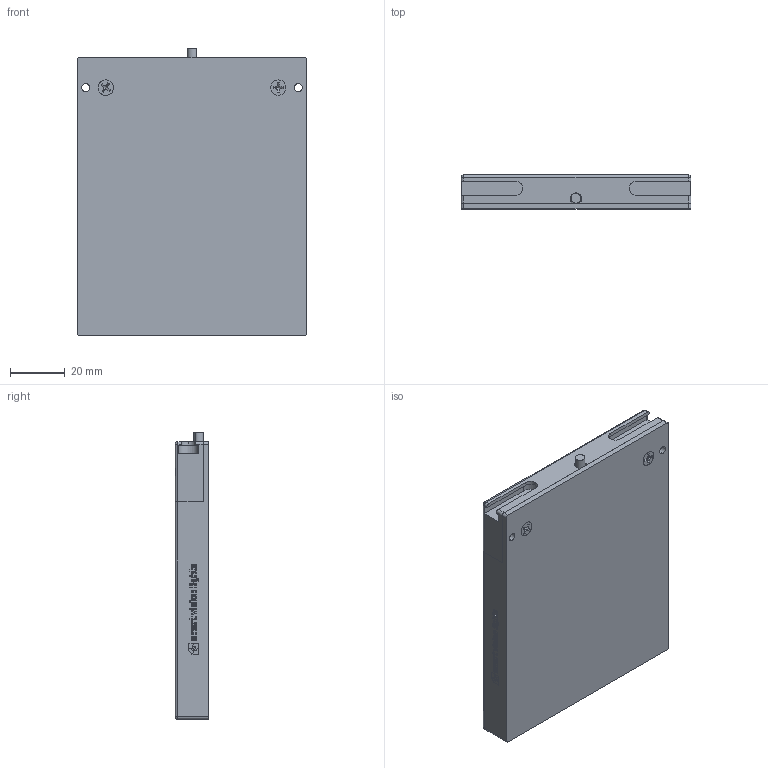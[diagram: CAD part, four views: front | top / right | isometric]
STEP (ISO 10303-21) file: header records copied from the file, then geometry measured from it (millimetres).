
FILE_DESCRIPTION (( 'STEP AP214' ), '1' );
FILE_NAME ('MINI BACKLIGHT ASY 75x75.STEP', '2023-02-28T14:51:51', ( '' ), ( '' ), 'SwSTEP 2.0', 'SolidWorks 2023', '' );
FILE_SCHEMA (( 'AUTOMOTIVE_DESIGN' ));
Length unit declared in the file: millimetre
Products named in the file (14): .118in DIFFUSER_75X75; BMP0001_BMP0001; MINI BACKLIGHT ASY 75x75; MINI BACKLIGHT HOUSING REV16_75X75; CABLE_CABLE; LED BRD ASY_75x75; MINI BACKLIGHT ENDCAP REV16_75X75; LED BRD LIGHT TAPE_75X75; .02in VELVET MATTE FILM_75X75; DIFFUSER ASY_75X75; MBL LED BRD SIMPLE_75X75; END CAP TAPE_END CAP TAPE; LED BRD ADHESIVE_75X75; SC0069_SC0069
Assembly tree (14 placements, depth 3):
  MINI BACKLIGHT ASY 75x75
    MINI BACKLIGHT HOUSING REV16_75X75
    LED BRD ASY_75x75
      MBL LED BRD SIMPLE_75X75
      LED BRD LIGHT TAPE_75X75
      LED BRD ADHESIVE_75X75
    DIFFUSER ASY_75X75
      .118in DIFFUSER_75X75
      .02in VELVET MATTE FILM_75X75
    BMP0001_BMP0001
    CABLE_CABLE
    MINI BACKLIGHT ENDCAP REV16_75X75
    END CAP TAPE_END CAP TAPE
    SC0069_SC0069  x2
Bounding box: 84 x 12.4 x 104.76 mm (x, y, z)
Volume: 66197.2 mm3; surface area: 95468.6 mm2
Topology: 12 solids, 12 shells, 1852 faces, 5210 edges, 3453 vertices
Faces by surface type: cylinder 852, plane 662, bspline 290, cone 42, sphere 4, torus 2
Entity records: 73535 total; most frequent: CARTESIAN_POINT 25152, ORIENTED_EDGE 10000, DIRECTION 8960, EDGE_CURVE 5000, VERTEX_POINT 3324, AXIS2_PLACEMENT_3D 3119, LINE 2722, VECTOR 2722
